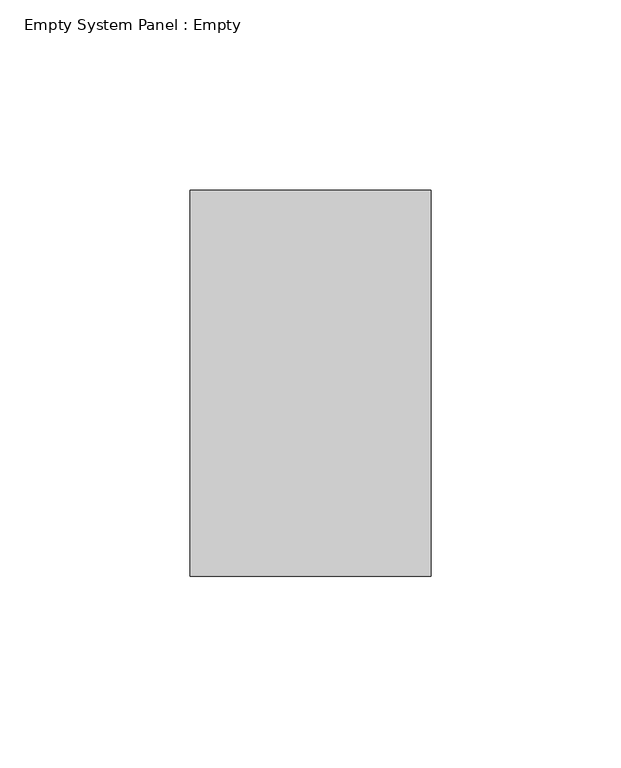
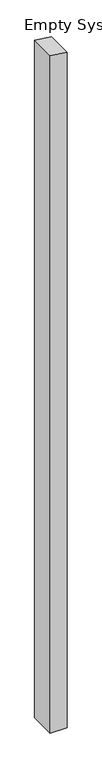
"""IFC4 building model written with IfcOpenShell, lengths in millimetres: plate geometry, Empty System Panel : Empty."""

from ifc_helpers import new_model, si_unit, frame, origin, place, context, project, spatial, polyline, outline, extrude, source, transform, mapped, element, save


def empty_system_panel_empty_605e3cf9(model_context):
    return source(origin(), model_context, "Body", "SweptSolid", [
        extrude(outline(polyline([(0.0, -31.75), (0.0, 31.75), (2708.6858383, 31.75), (2715.7881973, -31.75), (0.0, -31.75)])), frame((0.0, -50.8, 0.0), z_axis=(0.0, 1.0, 0.0), x_axis=(0.0, 0.0, 1.0)), (0.0, 0.0, 1.0), 101.6),
    ])


if __name__ == "__main__":
    model = new_model("IFC4")
    model_context = context("Model", 3, world=origin())
    ifc_project = project(units=[si_unit("LENGTHUNIT", "METRE", prefix="MILLI")], contexts=[model_context])
    site = spatial("IfcSite", under=ifc_project)
    building = spatial("IfcBuilding", under=site)
    placement = place(None, origin())
    empty_system_panel_empty_shape = empty_system_panel_empty_605e3cf9(model_context)
    element("IfcPlate", 1, ObjectType="Empty System Panel : Empty", at=placement, inside=building, context=model_context, shape_type="MappedRepresentation", body=[
        mapped(empty_system_panel_empty_shape, transform((0.0, 0.0, 0.0), x_axis=(1.0, 0.0, 0.0), y_axis=(0.0, 1.0, 0.0), z_axis=(0.0, 0.0, 1.0))),
    ])
    save(model, "model.ifc")
